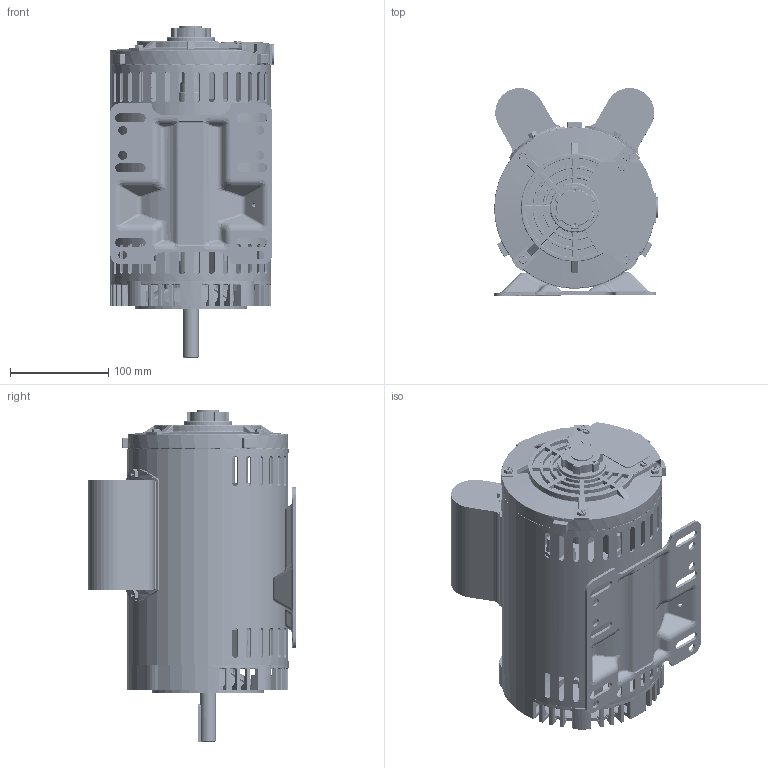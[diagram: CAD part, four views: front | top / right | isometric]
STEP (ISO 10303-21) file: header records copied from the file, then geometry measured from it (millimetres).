
FILE_DESCRIPTION (( 'STEP AP203' ), '1' );
FILE_NAME ('OPE 1.5-18-56CB.STEP', '2025-03-04T07:40:16', ( 'User' ), ( 'China' ), 'SwSTEP 2.0', 'SolidWorks 2019', '' );
FILE_SCHEMA (( 'CONFIG_CONTROL_DESIGN' ));
Products named in the file (3): OPE 1.5-18-56; d; OPE 1.5-18-56CB
Assembly tree (2 placements, depth 2):
  OPE 1.5-18-56CB
    OPE 1.5-18-56
    d
Bounding box: 166.5 x 211.34 x 338.15 mm (x, y, z)
Volume: 1751745.8 mm3; surface area: 711410.2 mm2
Topology: 26 solids, 29 shells, 4059 faces, 10752 edges, 6718 vertices
Faces by surface type: cylinder 1732, plane 1234, torus 441, bspline 341, cone 207, sphere 104
Entity records: 175963 total; most frequent: CARTESIAN_POINT 79871, ORIENTED_EDGE 21288, DIRECTION 18629, EDGE_CURVE 10644, AXIS2_PLACEMENT_3D 7048, VERTEX_POINT 6698, LINE 4533, VECTOR 4533
